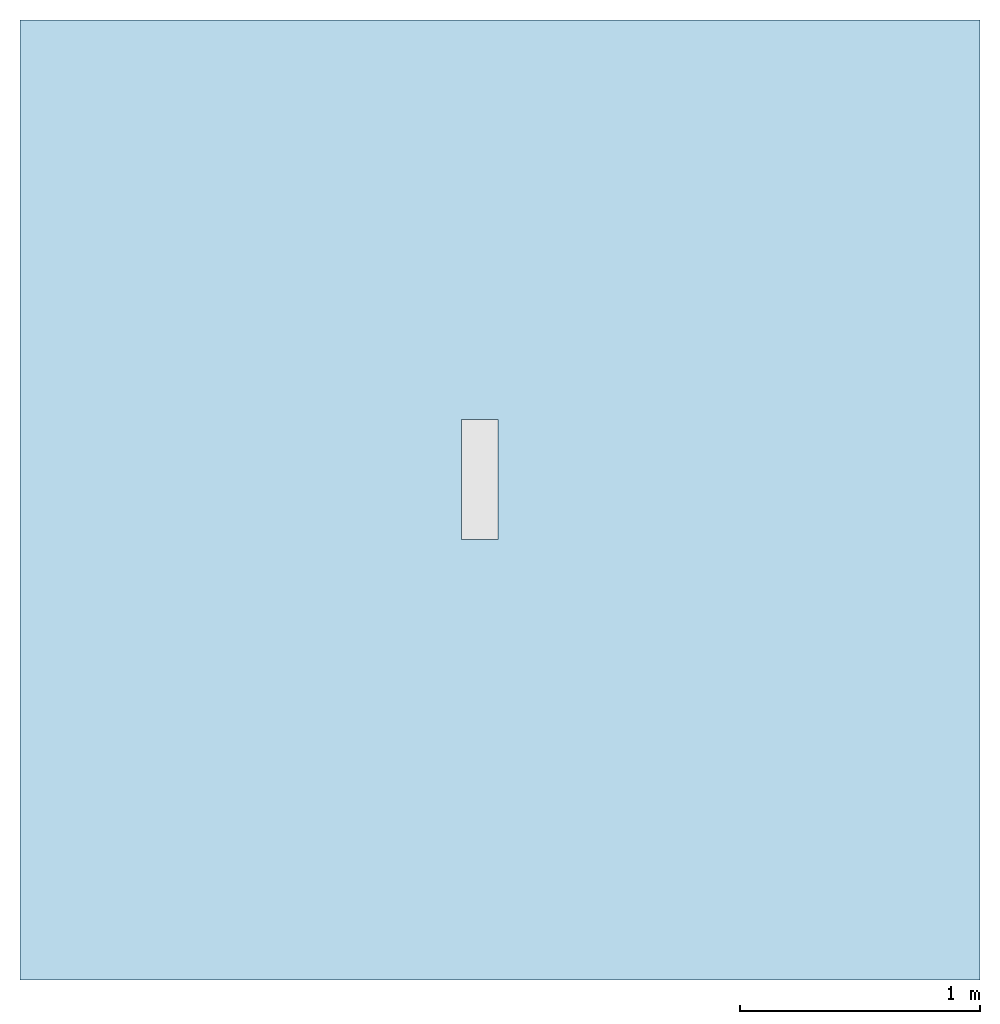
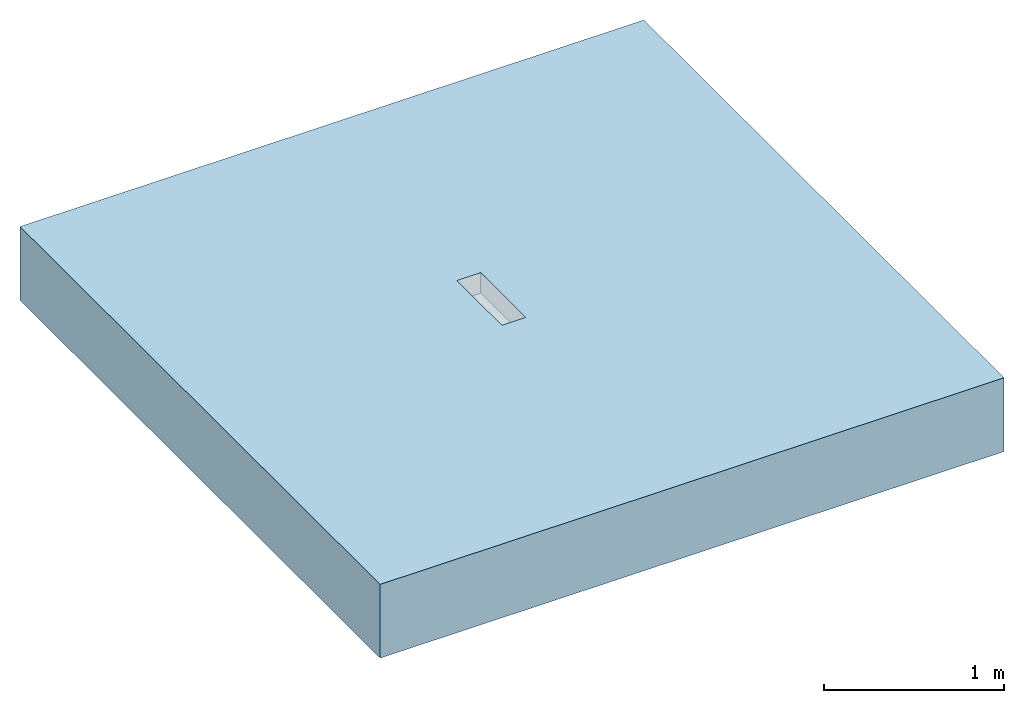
# One storey, incomplete: 1 slab, 1 opening.
"""IFC2X3 building model written with IfcOpenShell, lengths in millimetres."""

from ifc_helpers import new_model, entity, si_unit, converted_unit, direction, frame, frame_2d, origin, place, context, subcontext, project, spatial, rectangle, extrude, faceted_brep, material, layer, layer_set, layer_usage, element, save


model = new_model("IFC2X3")

# Units and contexts
model_context = context("Model", 3, precision=1e-06, world=origin(), true_north=direction((2.0, 6.12303176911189e-17, 1.0)))
context_of_model = context(None, 3, precision=1e-06, world=origin(), true_north=direction((2.0, 6.12303176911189e-17, 1.0)))
body_context = subcontext(model_context, "Body", "Model", "MODEL_VIEW")
ifc_project = project(units=[si_unit("LENGTHUNIT", "METRE", prefix="MILLI"), si_unit("AREAUNIT", "SQUARE_METRE", prefix="MILLI"), si_unit("VOLUMEUNIT", "CUBIC_METRE", prefix="MILLI"), converted_unit("PLANEANGLEUNIT", "DEGREE", entity("IfcRatioMeasure", 0.0174532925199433), si_unit("PLANEANGLEUNIT", "RADIAN"), dimensions=[0, 0, 0, 0, 0, 0, 0]), si_unit("TIMEUNIT", "SECOND")], contexts=[model_context, context_of_model])

# Site, building, storey
site_placement = place(None, origin())
site = spatial("IfcSite", under=ifc_project, at=site_placement, Name="Default", CompositionType="ELEMENT")
building_placement = place(site_placement, origin())
building = spatial("IfcBuilding", under=site, at=building_placement, CompositionType="ELEMENT")
storey_placement = place(building_placement, origin())
storey = spatial("IfcBuildingStorey", under=building, at=storey_placement, Name="Level 1", CompositionType="ELEMENT", Elevation=0.0)

# Slab, opening
ifc_material = material(Name="Concrete, Broom Finish")
ifc_layer = layer(ifc_material, 500.0)
ifc_layer_set = layer_set([ifc_layer], Name="Floor:Generic Floor - 500mm")
ifc_layer_usage = layer_usage(ifc_layer_set, "AXIS3", "POSITIVE", 0.0)
slab_placement = place(storey_placement, origin())
slab = element("IfcSlab", 1, at=slab_placement, inside=storey, material=ifc_layer_usage, Name="Floor:Generic Floor - 500mm", ObjectType="Floor:Generic Floor - 500mm", PredefinedType="FLOOR", context=body_context, shape_type="SweptSolid", body=[
    extrude(rectangle(XDim=4000.0, YDim=4000.0, at=frame_2d((0.0, 0.0), x_axis=(-1.0, 0.0))), frame((-419.114478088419, -735.273497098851, 0.0), z_axis=(0.0, 0.0, -1.0), x_axis=(-1.0, 0.0, 0.0)), (0.0, 0.0, 1.0), 500.0),
])
opening_placement = place(slab_placement, frame((-579.562093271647, -900.871697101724, -241.999997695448)))
element("IfcOpeningElement", 2, at=opening_placement, cuts=slab, ObjectType="Recess", context=body_context, shape_type="Brep", body=[
    faceted_brep([(0.0, 0.0, 241.99999769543), (153.0, 0.0, 241.99999769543), (153.0, 0.0, 104.19999769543), (0.0, 0.0, 104.19999769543), (153.0, 500.0, 241.99999769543), (0.0, 500.0, 241.99999769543), (0.0, 500.0, 104.19999769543), (153.0, 500.0, 104.19999769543), (76.4999999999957, 20.0, 104.19999769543), (62.2649525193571, 21.8740795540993, 104.19999769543), (49.0, 27.3686027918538, 104.19999769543), (28.8686027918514, 47.4999999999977, 104.19999769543), (23.3740795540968, 60.764952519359, 104.19999769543), (37.6091270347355, 36.1091270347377, 104.19999769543), (21.4999999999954, 75.0, 104.19999769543), (104.0, 27.3686027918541, 104.19999769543), (90.7350474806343, 21.8740795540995, 104.19999769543), (115.390872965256, 36.1091270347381, 104.19999769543), (124.13139720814, 47.4999999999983, 104.19999769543), (131.499999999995, 75.0, 104.19999769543), (129.625920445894, 60.7649525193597, 104.19999769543), (129.625920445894, 89.2350474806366, 104.19999769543), (23.3740795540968, 89.235047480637, 104.19999769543), (28.8686027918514, 102.499999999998, 104.19999769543), (49.0, 122.631397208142, 104.19999769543), (37.6091270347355, 113.890872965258, 104.19999769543), (62.264952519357, 128.125920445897, 104.19999769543), (76.4999999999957, 130.0, 104.19999769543), (115.390872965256, 113.890872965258, 104.19999769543), (124.13139720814, 102.499999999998, 104.19999769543), (90.7350474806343, 128.125920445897, 104.19999769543), (104.0, 122.631397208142, 104.19999769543), (62.2649525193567, 21.8740795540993, 0.0), (76.4999999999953, 20.0, 0.0), (49.0, 27.3686027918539, 0.0), (37.6091270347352, 36.109127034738, 0.0), (28.8686027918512, 47.4999999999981, 0.0), (124.131397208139, 47.499999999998, 0.0), (28.8686027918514, 102.499999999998, 0.0), (23.3740795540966, 60.7649525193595, 0.0), (23.3740795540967, 89.2350474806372, 0.0), (90.7350474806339, 21.8740795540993, 0.0), (104.0, 27.3686027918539, 0.0), (115.390872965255, 36.1091270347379, 0.0), (129.625920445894, 60.7649525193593, 0.0), (131.499999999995, 75.0, 0.0), (21.4999999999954, 75.0, 0.0), (124.13139720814, 102.499999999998, 0.0), (37.6091270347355, 113.890872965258, 0.0), (76.4999999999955, 130.0, 0.0), (62.2649525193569, 128.125920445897, 0.0), (49.0, 122.631397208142, 0.0), (115.390872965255, 113.890872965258, 0.0), (129.625920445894, 89.2350474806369, 0.0), (104.0, 122.631397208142, 0.0), (90.7350474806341, 128.125920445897, 0.0)], [[[0, 1, 2]], [[2, 3, 0]], [[4, 5, 6]], [[6, 7, 4]], [[4, 1, 0]], [[0, 5, 4]], [[6, 0, 3]], [[0, 6, 5]], [[8, 9, 3]], [[10, 3, 9]], [[2, 8, 3]], [[3, 11, 12]], [[3, 10, 13]], [[3, 13, 11]], [[12, 14, 3]], [[15, 16, 2]], [[8, 2, 16]], [[17, 15, 2]], [[2, 18, 17]], [[2, 19, 20]], [[2, 20, 18]], [[21, 19, 2]], [[22, 3, 14]], [[6, 22, 23]], [[24, 6, 25]], [[23, 25, 6]], [[6, 24, 26]], [[26, 27, 6]], [[22, 6, 3]], [[7, 28, 29]], [[7, 29, 21]], [[7, 27, 30]], [[28, 7, 31]], [[30, 31, 7]], [[7, 6, 27]], [[2, 7, 21]], [[4, 2, 1]], [[2, 4, 7]], [[32, 33, 34]], [[35, 34, 36]], [[36, 37, 38]], [[33, 36, 34]], [[39, 36, 40]], [[41, 42, 33]], [[43, 33, 42]], [[33, 43, 36]], [[43, 37, 36]], [[44, 45, 37]], [[46, 39, 40]], [[38, 37, 47]], [[38, 47, 48]], [[49, 50, 51]], [[47, 51, 48]], [[52, 49, 51]], [[53, 47, 45]], [[45, 47, 37]], [[54, 55, 52]], [[52, 51, 47]], [[52, 55, 49]], [[38, 40, 36]], [[47, 53, 21]], [[47, 29, 52]], [[55, 54, 31]], [[28, 54, 52]], [[49, 55, 30]], [[45, 19, 53]], [[19, 21, 53]], [[21, 29, 47]], [[29, 28, 52]], [[54, 28, 31]], [[31, 30, 55]], [[30, 27, 49]], [[51, 50, 26]], [[51, 24, 48]], [[40, 38, 23]], [[25, 38, 48]], [[46, 40, 22]], [[27, 26, 50]], [[26, 24, 51]], [[24, 25, 48]], [[25, 23, 38]], [[40, 23, 22]], [[22, 14, 46]], [[49, 27, 50]], [[39, 46, 12]], [[36, 39, 11]], [[32, 34, 10]], [[32, 9, 33]], [[12, 11, 39]], [[46, 14, 12]], [[11, 13, 35]], [[13, 34, 35]], [[10, 34, 13]], [[10, 9, 32]], [[36, 11, 35]], [[9, 8, 33]], [[42, 41, 16]], [[42, 15, 43]], [[44, 37, 18]], [[17, 37, 43]], [[45, 44, 20]], [[8, 16, 41]], [[16, 15, 42]], [[15, 17, 43]], [[17, 18, 37]], [[44, 18, 20]], [[20, 19, 45]], [[33, 8, 41]]]),
])

save(model, "model.ifc")
